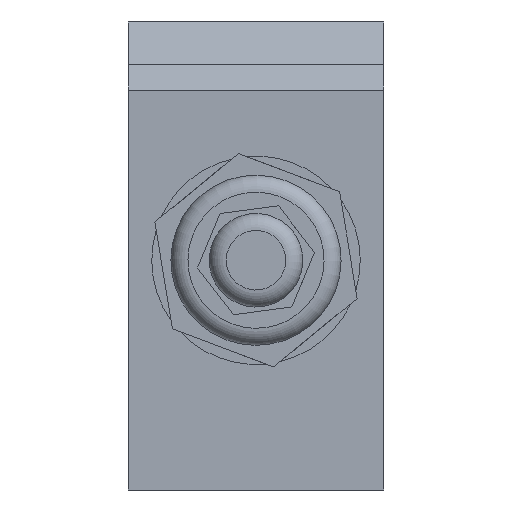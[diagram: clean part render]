
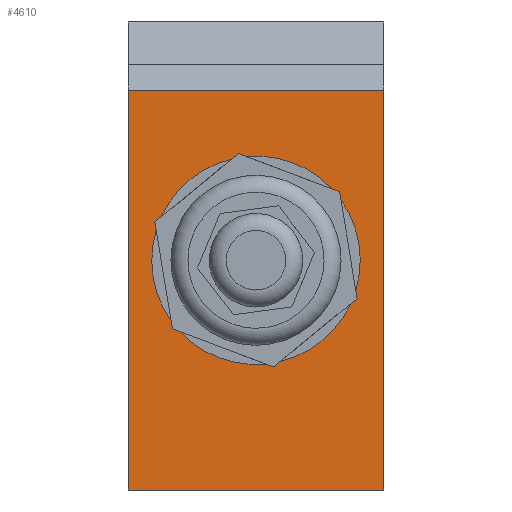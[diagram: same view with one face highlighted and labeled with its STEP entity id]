
A CAD part, left-side view. The second image highlights one B-rep face of the part: STEP entity #4610.
In plain terms, the highlighted planar face has unit normal (-1, 0, 0).
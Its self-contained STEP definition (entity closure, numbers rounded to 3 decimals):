
#36=LINE('',#17752,#198);
#38=LINE('',#17757,#200);
#41=LINE('',#17763,#203);
#46=LINE('',#17772,#208);
#78=LINE('',#17860,#240);
#79=LINE('',#17865,#241);
#80=LINE('',#17867,#242);
#81=LINE('',#17871,#243);
#82=LINE('',#17873,#244);
#83=LINE('',#17877,#245);
#84=LINE('',#17879,#246);
#85=LINE('',#17883,#247);
#86=LINE('',#17885,#248);
#87=LINE('',#17889,#249);
#88=LINE('',#17891,#250);
#89=LINE('',#17895,#251);
#198=VECTOR('',#8441,1000.);
#200=VECTOR('',#8445,1000.);
#203=VECTOR('',#8450,1000.);
#208=VECTOR('',#8459,1000.);
#240=VECTOR('',#8543,1000.);
#241=VECTOR('',#8546,1000.);
#242=VECTOR('',#8547,1000.);
#243=VECTOR('',#8550,1000.);
#244=VECTOR('',#8551,1000.);
#245=VECTOR('',#8554,1000.);
#246=VECTOR('',#8555,1000.);
#247=VECTOR('',#8558,1000.);
#248=VECTOR('',#8559,1000.);
#249=VECTOR('',#8562,1000.);
#250=VECTOR('',#8563,1000.);
#251=VECTOR('',#8566,1000.);
#1103=ORIENTED_EDGE('',*,*,#1898,.T.);
#1104=ORIENTED_EDGE('',*,*,#1893,.T.);
#1105=ORIENTED_EDGE('',*,*,#1903,.F.);
#1106=ORIENTED_EDGE('',*,*,#1895,.T.);
#1107=ORIENTED_EDGE('',*,*,#1947,.F.);
#1108=ORIENTED_EDGE('',*,*,#1948,.T.);
#1109=ORIENTED_EDGE('',*,*,#1949,.F.);
#1110=ORIENTED_EDGE('',*,*,#1950,.F.);
#1111=ORIENTED_EDGE('',*,*,#1951,.T.);
#1112=ORIENTED_EDGE('',*,*,#1952,.F.);
#1113=ORIENTED_EDGE('',*,*,#1953,.F.);
#1114=ORIENTED_EDGE('',*,*,#1954,.T.);
#1115=ORIENTED_EDGE('',*,*,#1955,.F.);
#1116=ORIENTED_EDGE('',*,*,#1956,.F.);
#1117=ORIENTED_EDGE('',*,*,#1957,.T.);
#1118=ORIENTED_EDGE('',*,*,#1958,.F.);
#1119=ORIENTED_EDGE('',*,*,#1959,.F.);
#1120=ORIENTED_EDGE('',*,*,#1960,.T.);
#1121=ORIENTED_EDGE('',*,*,#1961,.F.);
#1122=ORIENTED_EDGE('',*,*,#1962,.F.);
#1123=ORIENTED_EDGE('',*,*,#1963,.T.);
#1124=ORIENTED_EDGE('',*,*,#1964,.F.);
#1893=EDGE_CURVE('',#2406,#2407,#36,.T.);
#1895=EDGE_CURVE('',#2410,#2409,#38,.T.);
#1898=EDGE_CURVE('',#2409,#2406,#41,.T.);
#1903=EDGE_CURVE('',#2410,#2407,#46,.T.);
#1947=EDGE_CURVE('',#2444,#2445,#78,.T.);
#1948=EDGE_CURVE('',#2444,#2446,#2813,.T.);
#1949=EDGE_CURVE('',#2447,#2446,#79,.T.);
#1950=EDGE_CURVE('',#2448,#2447,#80,.T.);
#1951=EDGE_CURVE('',#2448,#2449,#2814,.T.);
#1952=EDGE_CURVE('',#2450,#2449,#81,.T.);
#1953=EDGE_CURVE('',#2451,#2450,#82,.T.);
#1954=EDGE_CURVE('',#2451,#2452,#2815,.T.);
#1955=EDGE_CURVE('',#2453,#2452,#83,.T.);
#1956=EDGE_CURVE('',#2454,#2453,#84,.T.);
#1957=EDGE_CURVE('',#2454,#2455,#2816,.T.);
#1958=EDGE_CURVE('',#2456,#2455,#85,.T.);
#1959=EDGE_CURVE('',#2457,#2456,#86,.T.);
#1960=EDGE_CURVE('',#2457,#2458,#2817,.T.);
#1961=EDGE_CURVE('',#2459,#2458,#87,.T.);
#1962=EDGE_CURVE('',#2460,#2459,#88,.T.);
#1963=EDGE_CURVE('',#2460,#2461,#2818,.T.);
#1964=EDGE_CURVE('',#2445,#2461,#89,.T.);
#2406=VERTEX_POINT('',#17749);
#2407=VERTEX_POINT('',#17751);
#2409=VERTEX_POINT('',#17756);
#2410=VERTEX_POINT('',#17758);
#2444=VERTEX_POINT('',#17861);
#2445=VERTEX_POINT('',#17862);
#2446=VERTEX_POINT('',#17864);
#2447=VERTEX_POINT('',#17866);
#2448=VERTEX_POINT('',#17868);
#2449=VERTEX_POINT('',#17870);
#2450=VERTEX_POINT('',#17872);
#2451=VERTEX_POINT('',#17874);
#2452=VERTEX_POINT('',#17876);
#2453=VERTEX_POINT('',#17878);
#2454=VERTEX_POINT('',#17880);
#2455=VERTEX_POINT('',#17882);
#2456=VERTEX_POINT('',#17884);
#2457=VERTEX_POINT('',#17886);
#2458=VERTEX_POINT('',#17888);
#2459=VERTEX_POINT('',#17890);
#2460=VERTEX_POINT('',#17892);
#2461=VERTEX_POINT('',#17894);
#2813=CIRCLE('',#7518,12.25);
#2814=CIRCLE('',#7519,12.25);
#2815=CIRCLE('',#7520,12.25);
#2816=CIRCLE('',#7521,12.25);
#2817=CIRCLE('',#7522,12.25);
#2818=CIRCLE('',#7523,12.25);
#3289=EDGE_LOOP('',(#1103,#1104,#1105,#1106));
#3290=EDGE_LOOP('',(#1107,#1108,#1109,#1110,#1111,#1112,#1113,#1114,#1115,
#1116,#1117,#1118,#1119,#1120,#1121,#1122,#1123,#1124));
#3955=FACE_BOUND('',#3289,.T.);
#3956=FACE_BOUND('',#3290,.T.);
#4346=PLANE('',#7517);
#4610=ADVANCED_FACE('',(#3955,#3956),#4346,.F.);
#7517=AXIS2_PLACEMENT_3D('',#17859,#8541,#8542);
#7518=AXIS2_PLACEMENT_3D('',#17863,#8544,#8545);
#7519=AXIS2_PLACEMENT_3D('',#17869,#8548,#8549);
#7520=AXIS2_PLACEMENT_3D('',#17875,#8552,#8553);
#7521=AXIS2_PLACEMENT_3D('',#17881,#8556,#8557);
#7522=AXIS2_PLACEMENT_3D('',#17887,#8560,#8561);
#7523=AXIS2_PLACEMENT_3D('',#17893,#8564,#8565);
#8441=DIRECTION('',(0.,1.,0.));
#8445=DIRECTION('',(0.,-1.,0.));
#8450=DIRECTION('',(0.,0.,1.));
#8459=DIRECTION('',(0.,0.,1.));
#8541=DIRECTION('',(1.,0.,0.));
#8542=DIRECTION('',(0.,0.,-1.));
#8543=DIRECTION('',(0.,0.936,0.353));
#8544=DIRECTION('',(1.,0.,0.));
#8545=DIRECTION('',(0.,0.,1.));
#8546=DIRECTION('',(0.,0.936,0.353));
#8547=DIRECTION('',(0.,0.162,0.987));
#8548=DIRECTION('',(1.,0.,0.));
#8549=DIRECTION('',(0.,0.,1.));
#8550=DIRECTION('',(0.,0.162,0.987));
#8551=DIRECTION('',(0.,-0.773,0.634));
#8552=DIRECTION('',(1.,0.,0.));
#8553=DIRECTION('',(0.,0.,1.));
#8554=DIRECTION('',(0.,-0.773,0.634));
#8555=DIRECTION('',(0.,-0.936,-0.353));
#8556=DIRECTION('',(1.,0.,0.));
#8557=DIRECTION('',(0.,0.,1.));
#8558=DIRECTION('',(0.,-0.936,-0.353));
#8559=DIRECTION('',(0.,-0.162,-0.987));
#8560=DIRECTION('',(1.,0.,0.));
#8561=DIRECTION('',(0.,0.,1.));
#8562=DIRECTION('',(0.,-0.162,-0.987));
#8563=DIRECTION('',(0.,0.773,-0.634));
#8564=DIRECTION('',(1.,0.,0.));
#8565=DIRECTION('',(0.,0.,1.));
#8566=DIRECTION('',(0.,0.773,-0.634));
#17749=CARTESIAN_POINT('',(-75.,-15.,19.5));
#17751=CARTESIAN_POINT('',(-75.,15.,19.5));
#17752=CARTESIAN_POINT('',(-75.,15.,19.5));
#17756=CARTESIAN_POINT('',(-75.,-15.,-27.5));
#17757=CARTESIAN_POINT('',(-75.,15.,-27.5));
#17758=CARTESIAN_POINT('',(-75.,15.,-27.5));
#17763=CARTESIAN_POINT('',(-75.,-15.,-27.5));
#17772=CARTESIAN_POINT('',(-75.,15.,-27.5));
#17859=CARTESIAN_POINT('',(-75.,15.,-27.5));
#17860=CARTESIAN_POINT('',(-75.,0.335,11.383));
#17861=CARTESIAN_POINT('',(-75.,1.162,11.695));
#17862=CARTESIAN_POINT('',(-75.,2.061,12.033));
#17863=CARTESIAN_POINT('',(-75.,0.,-0.5));
#17864=CARTESIAN_POINT('',(-75.,-8.926,7.89));
#17865=CARTESIAN_POINT('',(-75.,0.335,11.383));
#17866=CARTESIAN_POINT('',(-75.,-9.824,7.551));
#17867=CARTESIAN_POINT('',(-75.,-14.782,-22.604));
#17868=CARTESIAN_POINT('',(-75.,-9.98,6.604));
#17869=CARTESIAN_POINT('',(-75.,0.,-0.5));
#17870=CARTESIAN_POINT('',(-75.,-11.729,-4.035));
#17871=CARTESIAN_POINT('',(-75.,-14.782,-22.604));
#17872=CARTESIAN_POINT('',(-75.,-11.885,-4.982));
#17873=CARTESIAN_POINT('',(-75.,15.238,-27.21));
#17874=CARTESIAN_POINT('',(-75.,-11.142,-5.591));
#17875=CARTESIAN_POINT('',(-75.,0.,-0.5));
#17876=CARTESIAN_POINT('',(-75.,-2.803,-12.425));
#17877=CARTESIAN_POINT('',(-75.,15.238,-27.21));
#17878=CARTESIAN_POINT('',(-75.,-2.061,-13.033));
#17879=CARTESIAN_POINT('',(-75.,8.099,-9.202));
#17880=CARTESIAN_POINT('',(-75.,-1.162,-12.695));
#17881=CARTESIAN_POINT('',(-75.,0.,-0.5));
#17882=CARTESIAN_POINT('',(-75.,8.926,-8.89));
#17883=CARTESIAN_POINT('',(-75.,8.099,-9.202));
#17884=CARTESIAN_POINT('',(-75.,9.824,-8.551));
#17885=CARTESIAN_POINT('',(-75.,6.927,-26.173));
#17886=CARTESIAN_POINT('',(-75.,9.98,-7.604));
#17887=CARTESIAN_POINT('',(-75.,0.,-0.5));
#17888=CARTESIAN_POINT('',(-75.,11.729,3.035));
#17889=CARTESIAN_POINT('',(-75.,6.927,-26.173));
#17890=CARTESIAN_POINT('',(-75.,11.885,3.982));
#17891=CARTESIAN_POINT('',(-75.,29.183,-10.194));
#17892=CARTESIAN_POINT('',(-75.,11.142,4.591));
#17893=CARTESIAN_POINT('',(-75.,0.,-0.5));
#17894=CARTESIAN_POINT('',(-75.,2.803,11.425));
#17895=CARTESIAN_POINT('',(-75.,29.183,-10.194));
